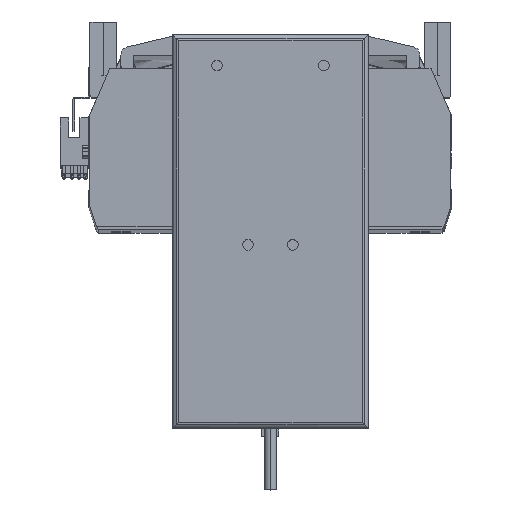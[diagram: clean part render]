
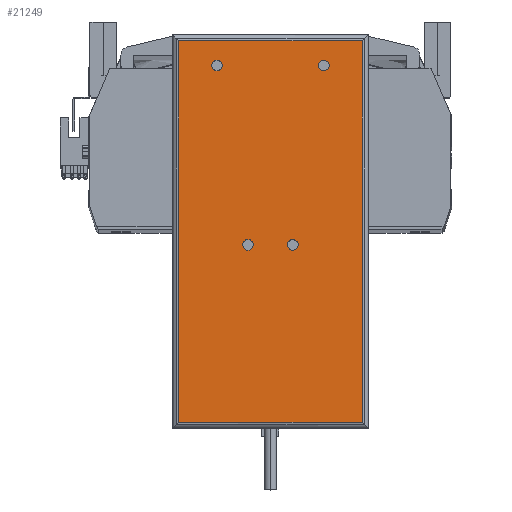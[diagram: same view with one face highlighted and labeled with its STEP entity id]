
A CAD part, top view. The second image highlights one B-rep face of the part: STEP entity #21249.
In plain terms, the highlighted planar face has unit normal (0, 0, 1) as drawn and (0, 0, -1) by its records, which use the part's own axes.
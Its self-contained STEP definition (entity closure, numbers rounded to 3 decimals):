
#693 = EDGE_CURVE ( 'NONE', #1228, #37196, #28420, .T. ) ;
#1096 = DIRECTION ( 'NONE',  ( 0., 0., 1. ) ) ;
#1228 = VERTEX_POINT ( 'NONE', #24536 ) ;
#1833 = CARTESIAN_POINT ( 'NONE',  ( -10.5, -6.25, 0. ) ) ;
#2263 = AXIS2_PLACEMENT_3D ( 'NONE', #28085, #31801, #8727 ) ;
#2469 = EDGE_CURVE ( 'NONE', #45065, #26862, #37947, .T. ) ;
#3341 = FACE_BOUND ( 'NONE', #14133, .T. ) ;
#3813 = EDGE_CURVE ( 'NONE', #40471, #27953, #26423, .T. ) ;
#4016 = DIRECTION ( 'NONE',  ( -1., 0., 0. ) ) ;
#4466 = CARTESIAN_POINT ( 'NONE',  ( 27.5, 77.75, 0. ) ) ;
#4556 = VERTEX_POINT ( 'NONE', #37877 ) ;
#4904 = VERTEX_POINT ( 'NONE', #29784 ) ;
#4961 = CARTESIAN_POINT ( 'NONE',  ( 8., -6.25, 0. ) ) ;
#5038 = EDGE_CURVE ( 'NONE', #49701, #12363, #5341, .T. ) ;
#5076 = ORIENTED_EDGE ( 'NONE', *, *, #16907, .T. ) ;
#5137 = CARTESIAN_POINT ( 'NONE',  ( 43., 89.25, 0. ) ) ;
#5341 = LINE ( 'NONE', #42209, #34808 ) ;
#5629 = CARTESIAN_POINT ( 'NONE',  ( 13., -6.25, 0. ) ) ;
#6007 = AXIS2_PLACEMENT_3D ( 'NONE', #35823, #39683, #16648 ) ;
#6700 = CARTESIAN_POINT ( 'NONE',  ( -27.5, 77.75, 0. ) ) ;
#7325 = EDGE_CURVE ( 'NONE', #43015, #49701, #16800, .T. ) ;
#8356 = CARTESIAN_POINT ( 'NONE',  ( -43., 89.25, 0. ) ) ;
#8727 = DIRECTION ( 'NONE',  ( -1., 0., 0. ) ) ;
#8850 = EDGE_CURVE ( 'NONE', #33628, #4904, #20298, .T. ) ;
#9103 = LINE ( 'NONE', #18814, #34996 ) ;
#10250 = CARTESIAN_POINT ( 'NONE',  ( 43., -89.25, 0. ) ) ;
#11745 = AXIS2_PLACEMENT_3D ( 'NONE', #29267, #44374, #32793 ) ;
#12228 = DIRECTION ( 'NONE',  ( 0., 0., -1. ) ) ;
#12363 = VERTEX_POINT ( 'NONE', #10250 ) ;
#13129 = EDGE_CURVE ( 'NONE', #12363, #4556, #9103, .T. ) ;
#13578 = DIRECTION ( 'NONE',  ( -1., 0., 0. ) ) ;
#13681 = CIRCLE ( 'NONE', #6007, 2.5 ) ;
#13719 = AXIS2_PLACEMENT_3D ( 'NONE', #31378, #1096, #46814 ) ;
#14060 = CARTESIAN_POINT ( 'NONE',  ( 25., 77.75, 0. ) ) ;
#14108 = FACE_OUTER_BOUND ( 'NONE', #26672, .T. ) ;
#14114 = ORIENTED_EDGE ( 'NONE', *, *, #8850, .F. ) ;
#14133 = EDGE_LOOP ( 'NONE', ( #37619, #31241 ) ) ;
#14204 = CARTESIAN_POINT ( 'NONE',  ( 10.5, -6.25, 0. ) ) ;
#14360 = DIRECTION ( 'NONE',  ( -1., 0., 0. ) ) ;
#14413 = EDGE_LOOP ( 'NONE', ( #32601, #22128 ) ) ;
#15208 = PLANE ( 'NONE',  #13719 ) ;
#15422 = DIRECTION ( 'NONE',  ( 0., -1., 0. ) ) ;
#15733 = DIRECTION ( 'NONE',  ( 0., 0., -1. ) ) ;
#16574 = ORIENTED_EDGE ( 'NONE', *, *, #46548, .F. ) ;
#16648 = DIRECTION ( 'NONE',  ( -1., 0., 0. ) ) ;
#16800 = LINE ( 'NONE', #21261, #36075 ) ;
#16907 = EDGE_CURVE ( 'NONE', #4556, #43015, #29491, .T. ) ;
#17468 = DIRECTION ( 'NONE',  ( -1., 0., 0. ) ) ;
#17677 = CIRCLE ( 'NONE', #23574, 2.5 ) ;
#18106 = DIRECTION ( 'NONE',  ( 0., 0., -1. ) ) ;
#18814 = CARTESIAN_POINT ( 'NONE',  ( -46., -89.25, 0. ) ) ;
#18893 = EDGE_CURVE ( 'NONE', #37196, #1228, #13681, .T. ) ;
#19298 = CARTESIAN_POINT ( 'NONE',  ( 25., 77.75, 0. ) ) ;
#19381 = AXIS2_PLACEMENT_3D ( 'NONE', #19298, #15733, #4016 ) ;
#19820 = CIRCLE ( 'NONE', #48426, 2.5 ) ;
#20298 = CIRCLE ( 'NONE', #11745, 2.5 ) ;
#21249 = ADVANCED_FACE ( 'NONE', ( #14108, #23763, #45428, #3341, #38230 ), #15208, .F. ) ;
#21261 = CARTESIAN_POINT ( 'NONE',  ( -46., 89.25, 0. ) ) ;
#21299 = CIRCLE ( 'NONE', #37840, 2.5 ) ;
#22128 = ORIENTED_EDGE ( 'NONE', *, *, #3813, .F. ) ;
#22193 = ORIENTED_EDGE ( 'NONE', *, *, #7325, .T. ) ;
#23574 = AXIS2_PLACEMENT_3D ( 'NONE', #14060, #36978, #17468 ) ;
#23763 = FACE_BOUND ( 'NONE', #42072, .T. ) ;
#24536 = CARTESIAN_POINT ( 'NONE',  ( -22.5, 77.75, 0. ) ) ;
#24890 = AXIS2_PLACEMENT_3D ( 'NONE', #14204, #18106, #14360 ) ;
#25319 = DIRECTION ( 'NONE',  ( 1., 0., 0. ) ) ;
#26423 = CIRCLE ( 'NONE', #19381, 2.5 ) ;
#26672 = EDGE_LOOP ( 'NONE', ( #28087, #33703, #5076, #22193 ) ) ;
#26862 = VERTEX_POINT ( 'NONE', #4961 ) ;
#27953 = VERTEX_POINT ( 'NONE', #28804 ) ;
#28085 = CARTESIAN_POINT ( 'NONE',  ( -25., 77.75, 0. ) ) ;
#28087 = ORIENTED_EDGE ( 'NONE', *, *, #5038, .T. ) ;
#28313 = EDGE_CURVE ( 'NONE', #4904, #33628, #21299, .T. ) ;
#28320 = EDGE_CURVE ( 'NONE', #27953, #40471, #17677, .T. ) ;
#28420 = CIRCLE ( 'NONE', #2263, 2.5 ) ;
#28804 = CARTESIAN_POINT ( 'NONE',  ( 22.5, 77.75, 0. ) ) ;
#29267 = CARTESIAN_POINT ( 'NONE',  ( -10.5, -6.25, 0. ) ) ;
#29491 = LINE ( 'NONE', #45055, #45709 ) ;
#29784 = CARTESIAN_POINT ( 'NONE',  ( -13., -6.25, 0. ) ) ;
#30353 = EDGE_LOOP ( 'NONE', ( #16574, #31287 ) ) ;
#31241 = ORIENTED_EDGE ( 'NONE', *, *, #693, .F. ) ;
#31287 = ORIENTED_EDGE ( 'NONE', *, *, #2469, .F. ) ;
#31378 = CARTESIAN_POINT ( 'NONE',  ( -46., -92.25, 0. ) ) ;
#31452 = DIRECTION ( 'NONE',  ( -1., 0., 0. ) ) ;
#31801 = DIRECTION ( 'NONE',  ( 0., 0., -1. ) ) ;
#32601 = ORIENTED_EDGE ( 'NONE', *, *, #28320, .F. ) ;
#32793 = DIRECTION ( 'NONE',  ( -1., 0., 0. ) ) ;
#33628 = VERTEX_POINT ( 'NONE', #43032 ) ;
#33703 = ORIENTED_EDGE ( 'NONE', *, *, #13129, .T. ) ;
#33799 = DIRECTION ( 'NONE',  ( 0., 1., 0. ) ) ;
#34291 = DIRECTION ( 'NONE',  ( -1., 0., 0. ) ) ;
#34808 = VECTOR ( 'NONE', #15422, 1000. ) ;
#34975 = CARTESIAN_POINT ( 'NONE',  ( 10.5, -6.25, 0. ) ) ;
#34996 = VECTOR ( 'NONE', #34291, 1000. ) ;
#35823 = CARTESIAN_POINT ( 'NONE',  ( -25., 77.75, 0. ) ) ;
#36075 = VECTOR ( 'NONE', #25319, 1000. ) ;
#36646 = DIRECTION ( 'NONE',  ( 0., 0., -1. ) ) ;
#36978 = DIRECTION ( 'NONE',  ( 0., 0., -1. ) ) ;
#37196 = VERTEX_POINT ( 'NONE', #6700 ) ;
#37619 = ORIENTED_EDGE ( 'NONE', *, *, #18893, .F. ) ;
#37840 = AXIS2_PLACEMENT_3D ( 'NONE', #1833, #36646, #13578 ) ;
#37877 = CARTESIAN_POINT ( 'NONE',  ( -43., -89.25, 0. ) ) ;
#37947 = CIRCLE ( 'NONE', #24890, 2.5 ) ;
#38230 = FACE_BOUND ( 'NONE', #14413, .T. ) ;
#39683 = DIRECTION ( 'NONE',  ( 0., 0., -1. ) ) ;
#40471 = VERTEX_POINT ( 'NONE', #4466 ) ;
#42072 = EDGE_LOOP ( 'NONE', ( #48138, #14114 ) ) ;
#42209 = CARTESIAN_POINT ( 'NONE',  ( 43., -92.25, 0. ) ) ;
#43015 = VERTEX_POINT ( 'NONE', #8356 ) ;
#43032 = CARTESIAN_POINT ( 'NONE',  ( -8., -6.25, 0. ) ) ;
#44374 = DIRECTION ( 'NONE',  ( 0., 0., -1. ) ) ;
#45055 = CARTESIAN_POINT ( 'NONE',  ( -43., -92.25, 0. ) ) ;
#45065 = VERTEX_POINT ( 'NONE', #5629 ) ;
#45428 = FACE_BOUND ( 'NONE', #30353, .T. ) ;
#45709 = VECTOR ( 'NONE', #33799, 1000. ) ;
#46548 = EDGE_CURVE ( 'NONE', #26862, #45065, #19820, .T. ) ;
#46814 = DIRECTION ( 'NONE',  ( 1., 0., 0. ) ) ;
#48138 = ORIENTED_EDGE ( 'NONE', *, *, #28313, .F. ) ;
#48426 = AXIS2_PLACEMENT_3D ( 'NONE', #34975, #12228, #31452 ) ;
#49701 = VERTEX_POINT ( 'NONE', #5137 ) ;
